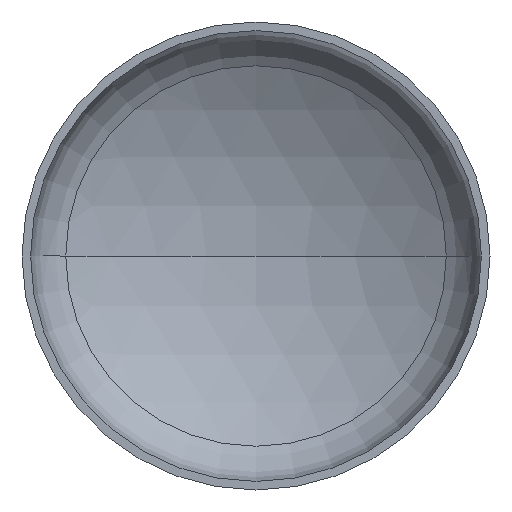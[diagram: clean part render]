
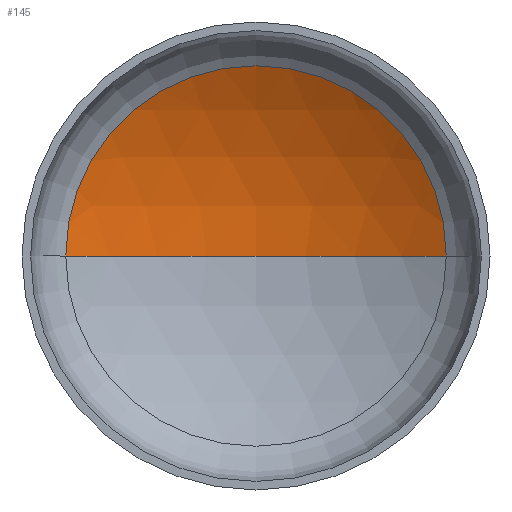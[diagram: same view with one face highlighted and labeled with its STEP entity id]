
A CAD part, front view. The second image highlights one B-rep face of the part: STEP entity #145.
In plain terms, the highlighted spherical face has radius 1440 mm.
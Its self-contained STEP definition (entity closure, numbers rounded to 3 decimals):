
#7 = CIRCLE ( 'NONE', #42, 1440. ) ;
#8 = CARTESIAN_POINT ( 'NONE',  ( 0., 336.848, 0. ) ) ;
#19 = EDGE_LOOP ( 'NONE', ( #283, #29, #141 ) ) ;
#29 = ORIENTED_EDGE ( 'NONE', *, *, #132, .T. ) ;
#34 = AXIS2_PLACEMENT_3D ( 'NONE', #194, #243, #242 ) ;
#38 = VERTEX_POINT ( 'NONE', #248 ) ;
#39 = AXIS2_PLACEMENT_3D ( 'NONE', #209, #204, #205 ) ;
#42 = AXIS2_PLACEMENT_3D ( 'NONE', #228, #396, #168 ) ;
#44 = AXIS2_PLACEMENT_3D ( 'NONE', #8, #252, #411 ) ;
#126 = VERTEX_POINT ( 'NONE', #199 ) ;
#130 = EDGE_CURVE ( 'NONE', #154, #38, #240, .T. ) ;
#132 = EDGE_CURVE ( 'NONE', #126, #154, #7, .T. ) ;
#137 = EDGE_CURVE ( 'NONE', #126, #38, #162, .T. ) ;
#141 = ORIENTED_EDGE ( 'NONE', *, *, #130, .T. ) ;
#145 = ADVANCED_FACE ( 'NONE', ( #298 ), #146, .F. ) ;
#146 = SPHERICAL_SURFACE ( 'NONE', #34, 1440. ) ;
#154 = VERTEX_POINT ( 'NONE', #192 ) ;
#162 = CIRCLE ( 'NONE', #39, 1440. ) ;
#168 = DIRECTION ( 'NONE',  ( -1., 0., 0. ) ) ;
#192 = CARTESIAN_POINT ( 'NONE',  ( 731.742, 336.848, 0. ) ) ;
#194 = CARTESIAN_POINT ( 'NONE',  ( 0., -903.375, 0. ) ) ;
#199 = CARTESIAN_POINT ( 'NONE',  ( 0., 536.625, 0. ) ) ;
#204 = DIRECTION ( 'NONE',  ( 0., 0., 1. ) ) ;
#205 = DIRECTION ( 'NONE',  ( 1., 0., 0. ) ) ;
#209 = CARTESIAN_POINT ( 'NONE',  ( 0., -903.375, 0. ) ) ;
#228 = CARTESIAN_POINT ( 'NONE',  ( 0., -903.375, 0. ) ) ;
#240 = CIRCLE ( 'NONE', #44, 731.742 ) ;
#242 = DIRECTION ( 'NONE',  ( -1., 0., 0. ) ) ;
#243 = DIRECTION ( 'NONE',  ( 0., 0., -1. ) ) ;
#248 = CARTESIAN_POINT ( 'NONE',  ( -731.742, 336.848, 0. ) ) ;
#252 = DIRECTION ( 'NONE',  ( 0., -1., 0. ) ) ;
#283 = ORIENTED_EDGE ( 'NONE', *, *, #137, .F. ) ;
#298 = FACE_OUTER_BOUND ( 'NONE', #19, .T. ) ;
#396 = DIRECTION ( 'NONE',  ( 0., 0., -1. ) ) ;
#411 = DIRECTION ( 'NONE',  ( 1., 0., 0. ) ) ;
